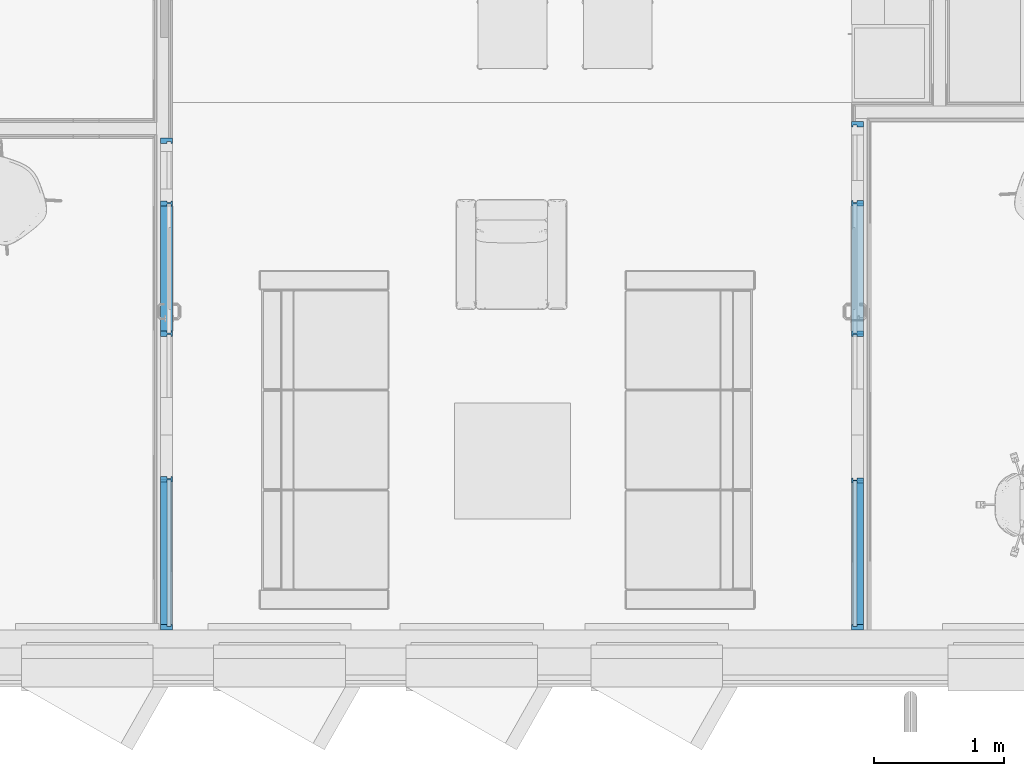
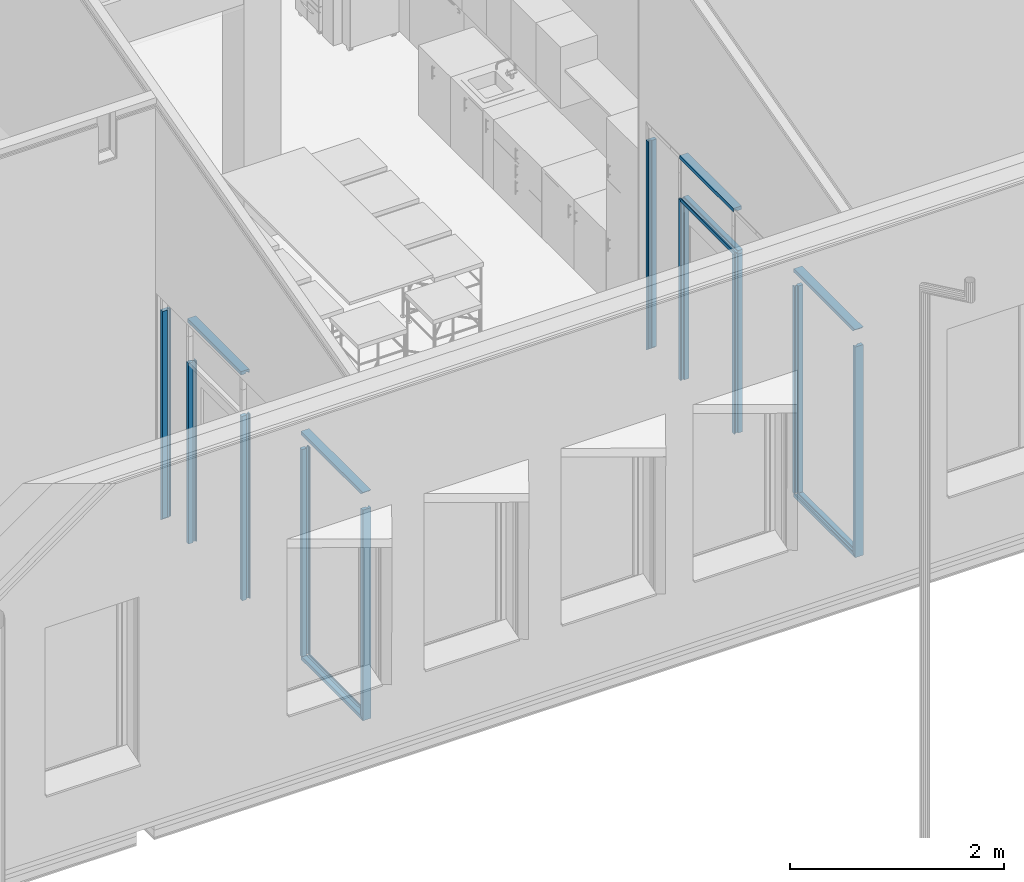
# One storey, part 30 of 153: 17 members, 2 elements without a shape of their own.
"""IFC2X3 building model written with IfcOpenShell, lengths in millimetres."""

from ifc_helpers import new_model, entity, si_unit, converted_unit, derived_unit, money_unit, direction, frame, origin_with_axes, place, context, subcontext, project, spatial, faceted_brep, material, type_object, element, aggregate, save


model = new_model("IFC2X3")

# Units and contexts
model_context = context("Model", 3, precision=0.01, world=origin_with_axes(), true_north=direction((0.0, 1.0)))
body_context = subcontext(model_context, "Body", "Model", "MODEL_VIEW")
ifc_project = project(units=[si_unit("LENGTHUNIT", "METRE", prefix="MILLI"), si_unit("AREAUNIT", "SQUARE_METRE"), si_unit("VOLUMEUNIT", "CUBIC_METRE"), converted_unit("PLANEANGLEUNIT", "DEGREE", entity("IfcPlaneAngleMeasure", 0.0174532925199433), si_unit("PLANEANGLEUNIT", "RADIAN"), dimensions=[0, 0, 0, 0, 0, 0, 0]), money_unit("EUR"), converted_unit("TIMEUNIT", "Year", entity("IfcTimeMeasure", 31557600.0), si_unit("TIMEUNIT", "SECOND"), dimensions=[0, 0, 1, 0, 0, 0, 0]), si_unit("MASSUNIT", "GRAM", prefix="KILO"), si_unit("THERMODYNAMICTEMPERATUREUNIT", "DEGREE_CELSIUS"), si_unit("LUMINOUSINTENSITYUNIT", "LUMEN"), si_unit("ENERGYUNIT", "JOULE", prefix="MEGA"), derived_unit("THERMALCONDUCTANCEUNIT", [(si_unit("POWERUNIT", "WATT"), 1), (si_unit("LENGTHUNIT", "METRE"), -1), (si_unit("THERMODYNAMICTEMPERATUREUNIT", "KELVIN"), -1)]), derived_unit("SPECIFICHEATCAPACITYUNIT", [(si_unit("ENERGYUNIT", "JOULE"), 1), (si_unit("MASSUNIT", "GRAM", prefix="KILO"), -1), (si_unit("THERMODYNAMICTEMPERATUREUNIT", "KELVIN"), -1)]), derived_unit("MASSDENSITYUNIT", [(si_unit("MASSUNIT", "GRAM", prefix="KILO"), 1), (si_unit("VOLUMEUNIT", "CUBIC_METRE"), -1)])], contexts=[model_context])

# Site, building, storey
site_placement = place(None, frame((0.0, 0.0, 8650.0), z_axis=(0.0, 0.0, 1.0), x_axis=(1.0, 0.0, 0.0)))
site = spatial("IfcSite", under=ifc_project, at=site_placement, Name="43301:001:0844", CompositionType="ELEMENT")
building_placement = place(site_placement, origin_with_axes())
building = spatial("IfcBuilding", under=site, at=building_placement, Name="Kuressaare Ametikooli tuulikute mehaanikute õppekorpus", CompositionType="ELEMENT")
storey_placement = place(building_placement, frame((0.0, 0.0, 4100.0), z_axis=(0.0, 0.0, 1.0), x_axis=(1.0, 0.0, 0.0)))
storey = spatial("IfcBuildingStorey", under=building, at=storey_placement, Name="2.korrus", CompositionType="ELEMENT", Elevation=4100.0)

# Curtain wall, members
curtain_wall_type = type_object("IfcCurtainWallType", Name="Curtain Wall Type", PredefinedType="NOTDEFINED")
curtain_wall_1_placement = place(storey_placement, frame((122879.3962682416, 12626.24529387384, 0.0), z_axis=(0.0, 0.0, 1.0), x_axis=(1.0, 0.0, 0.0)))
curtain_wall_1 = element("IfcCurtainWall", 1, at=curtain_wall_1_placement, inside=storey, type_object=curtain_wall_type, Name="PKF-3")
ifc_material = material(Name="Aluminium")
member_type_1 = type_object("IfcMemberType", Name="Boundary Frame 40 x 90", PredefinedType="NOTDEFINED")
member_1_placement = place(curtain_wall_1_placement, frame((0.0, 271.6905699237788, 0.0), z_axis=(0.0, 0.0, 1.0), x_axis=(0.0, -1.0, 0.0)))
member_1 = element("IfcMember", 2, at=member_1_placement, type_object=member_type_1, material=ifc_material, context=body_context, shape_type="Brep", body=[
    faceted_brep([(25.00000000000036, -15.00000000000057, 2400.000007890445), (25.00000000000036, 15.00000000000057, 2400.000007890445), (39.99999999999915, 15.00000000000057, 2400.000007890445), (39.99999999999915, 25.00000000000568, 2400.000007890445), (0.0, 25.00000000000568, 2400.000007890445), (0.0, 0.0, 2400.000007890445), (0.0, -64.99999999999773, 2400.000007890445), (39.99999999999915, -64.99999999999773, 2400.000007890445), (39.99999999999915, -15.00000000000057, 2400.000007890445), (25.00000000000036, -15.00000000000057, 24.99999999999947), (25.00000000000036, 15.00000000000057, 24.99999999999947), (39.99999999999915, 15.00000000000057, 40.00000000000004), (39.99999999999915, 25.00000000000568, 40.00000000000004), (0.0, 25.00000000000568, 0.0), (0.0, 0.0, 0.0), (0.0, -64.99999999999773, 0.0), (39.99999999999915, -64.99999999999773, 40.00000000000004), (39.99999999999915, -15.00000000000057, 40.00000000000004)], [[[0, 1, 2, 3, 4, 5, 6, 7, 8]], [[1, 0, 9, 10]], [[11, 2, 1, 10]], [[2, 11, 12, 3]], [[4, 3, 12, 13]], [[5, 4, 13, 14]], [[6, 5, 14, 15]], [[7, 6, 15, 16]], [[17, 8, 7, 16]], [[0, 8, 17, 9]], [[9, 17, 16, 15, 14, 13, 12, 11, 10]]]),
])
member_2_placement = place(curtain_wall_1_placement, frame((0.0, -3502.406732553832, 2400.0), z_axis=(0.0, 0.0, -1.0), x_axis=(0.0, 1.0, 0.0)))
member_2 = element("IfcMember", 3, at=member_2_placement, type_object=member_type_1, material=ifc_material, context=body_context, shape_type="Brep", body=[
    faceted_brep([(25.00000000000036, -15.00000000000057, 2375.0), (25.00000000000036, 15.00000000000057, 2375.0), (39.99999999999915, 15.00000000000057, 2360.0), (39.99999999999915, 25.00000000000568, 2360.0), (0.0, 25.00000000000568, 2400.0), (0.0, 0.0, 2400.0), (0.0, -64.99999999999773, 2400.0), (39.99999999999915, -64.99999999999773, 2360.0), (39.99999999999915, -15.00000000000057, 2360.0), (25.00000000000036, -15.00000000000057, -1.043910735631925e-06), (25.00000000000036, 15.00000000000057, -1.043910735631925e-06), (39.99999999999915, 15.00000000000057, -1.043910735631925e-06), (39.99999999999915, 25.00000000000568, -1.043910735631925e-06), (0.0, 25.00000000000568, -1.043911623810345e-06), (0.0, 0.0, -1.043911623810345e-06), (0.0, -64.99999999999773, -1.043911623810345e-06), (39.99999999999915, -64.99999999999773, -1.043910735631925e-06), (39.99999999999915, -15.00000000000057, -1.043910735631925e-06)], [[[0, 1, 2, 3, 4, 5, 6, 7, 8]], [[1, 0, 9, 10]], [[11, 2, 1, 10]], [[2, 11, 12, 3]], [[13, 4, 3, 12]], [[14, 5, 4, 13]], [[15, 6, 5, 14]], [[16, 7, 6, 15]], [[17, 8, 7, 16]], [[0, 8, 17, 9]], [[9, 17, 16, 15, 14, 13, 12, 11, 10]]]),
])
member_3_placement = place(curtain_wall_1_placement, frame((0.0, -1229.358154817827, 2600.0), z_axis=(0.0, 1.0, 0.0), x_axis=(0.0, 0.0, 1.0)))
member_3 = element("IfcMember", 4, at=member_3_placement, type_object=member_type_1, material=ifc_material, context=body_context, shape_type="Brep", body=[
    faceted_brep([(-25.00000000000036, -15.00000000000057, 1000.001771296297), (-40.00000000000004, -15.00000000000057, 1000.001771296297), (-40.00000000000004, -64.99999999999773, 1000.001771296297), (0.0, -64.99999999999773, 1000.001771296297), (0.0, 0.0, 1000.001771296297), (0.0, 25.00000000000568, 1000.001771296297), (-40.00000000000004, 25.00000000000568, 1000.001771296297), (-40.00000000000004, 15.00000000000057, 1000.001771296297), (-25.00000000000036, 15.00000000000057, 1000.001771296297), (-25.00000000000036, -15.00000000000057, 0.0), (-40.00000000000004, -15.00000000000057, 0.0), (-40.00000000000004, -64.99999999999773, 0.0), (0.0, -64.99999999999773, 0.0), (0.0, 0.0, 0.0), (0.0, 25.00000000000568, 0.0), (-40.00000000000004, 25.00000000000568, 0.0), (-40.00000000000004, 15.00000000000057, 0.0), (-25.00000000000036, 15.00000000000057, 0.0)], [[[0, 1, 2, 3, 4, 5, 6, 7, 8]], [[0, 9, 10, 1]], [[10, 11, 2, 1]], [[11, 12, 3, 2]], [[12, 13, 4, 3]], [[13, 14, 5, 4]], [[14, 15, 6, 5]], [[7, 6, 15, 16]], [[16, 17, 8, 7]], [[8, 17, 9, 0]], [[9, 17, 16, 15, 14, 13, 12, 11, 10]]]),
])
member_4_placement = place(curtain_wall_1_placement, frame((0.0, -3502.406722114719, 2600.0), z_axis=(0.0, 1.0, 0.0), x_axis=(0.0, 0.0, 1.0)))
member_4 = element("IfcMember", 5, at=member_4_placement, type_object=member_type_1, material=ifc_material, context=body_context, shape_type="Brep", body=[
    faceted_brep([(-25.00000000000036, -15.00000000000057, 1156.524285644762), (-40.00000000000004, -15.00000000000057, 1156.524285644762), (-40.00000000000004, -64.99999999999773, 1156.524285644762), (0.0, -64.99999999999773, 1156.524285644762), (0.0, 0.0, 1156.524285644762), (0.0, 25.00000000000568, 1156.524285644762), (-40.00000000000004, 25.00000000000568, 1156.524285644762), (-40.00000000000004, 15.00000000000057, 1156.524285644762), (-25.00000000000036, 15.00000000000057, 1156.524285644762), (-25.00000000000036, -15.00000000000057, 24.99999869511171), (-40.00000000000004, -15.00000000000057, 39.99999791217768), (-40.00000000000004, -64.99999999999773, 39.99999791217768), (0.0, -64.99999999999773, 0.0), (0.0, 0.0, 0.0), (0.0, 25.00000000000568, 0.0), (-40.00000000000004, 25.00000000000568, 39.99999791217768), (-40.00000000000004, 15.00000000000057, 39.99999791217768), (-25.00000000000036, 15.00000000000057, 24.99999869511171)], [[[0, 1, 2, 3, 4, 5, 6, 7, 8]], [[0, 9, 10, 1]], [[10, 11, 2, 1]], [[2, 11, 12, 3]], [[3, 12, 13, 4]], [[4, 13, 14, 5]], [[5, 14, 15, 6]], [[7, 6, 15, 16]], [[16, 17, 8, 7]], [[8, 17, 9, 0]], [[9, 17, 16, 15, 14, 13, 12, 11, 10]]]),
])
member_5_placement = place(curtain_wall_1_placement, frame((0.0, -3502.406732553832, 0.0), z_axis=(0.0, 1.0, 0.0), x_axis=(0.0, 0.0, 1.0)))
member_5 = element("IfcMember", 6, at=member_5_placement, type_object=member_type_1, material=ifc_material, context=body_context, shape_type="Brep", body=[
    faceted_brep([(25.00000000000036, -15.00000000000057, 1156.524586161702), (25.00000000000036, 15.00000000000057, 1156.524586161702), (40.00000000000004, 15.00000000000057, 1156.524586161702), (40.00000000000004, 25.00000000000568, 1156.524586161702), (0.0, 25.00000000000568, 1156.524586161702), (0.0, 0.0, 1156.524586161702), (0.0, -64.99999999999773, 1156.524586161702), (40.00000000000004, -64.99999999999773, 1156.524586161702), (40.00000000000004, -15.00000000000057, 1156.524586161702), (25.00000000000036, -15.00000000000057, 25.00000000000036), (25.00000000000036, 15.00000000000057, 25.00000000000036), (40.00000000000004, 15.00000000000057, 39.99999999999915), (40.00000000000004, 25.00000000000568, 39.99999999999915), (0.0, 25.00000000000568, 0.0), (0.0, 0.0, 0.0), (0.0, -64.99999999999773, 0.0), (40.00000000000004, -64.99999999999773, 40.00000000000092), (40.00000000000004, -15.00000000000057, 40.00000000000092)], [[[0, 1, 2, 3, 4, 5, 6, 7, 8]], [[1, 0, 9, 10]], [[11, 2, 1, 10]], [[2, 11, 12, 3]], [[4, 3, 12, 13]], [[5, 4, 13, 14]], [[6, 5, 14, 15]], [[7, 6, 15, 16]], [[17, 8, 7, 16]], [[0, 8, 17, 9]], [[9, 17, 16, 15, 14, 13, 12, 11, 10]]]),
])

curtain_wall_2_placement = place(storey_placement, frame((128142.9907946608, 12695.39546179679, 0.0), z_axis=(0.0, 0.0, 1.0), x_axis=(1.0, 0.0, 0.0)))
curtain_wall_2 = element("IfcCurtainWall", 7, at=curtain_wall_2_placement, inside=storey, type_object=curtain_wall_type, Name="PKF-4")
member_6_placement = place(curtain_wall_2_placement, frame((0.0, 328.6513387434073, 0.0), z_axis=(0.0, 0.0, 1.0), x_axis=(0.0, -1.0, 0.0)))
member_6 = element("IfcMember", 8, at=member_6_placement, type_object=member_type_1, material=ifc_material, context=body_context, shape_type="Brep", body=[
    faceted_brep([(25.00000000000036, 14.99999999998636, 2400.000007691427), (39.99999999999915, 14.99999999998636, 2400.000007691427), (39.99999999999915, 64.99999999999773, 2400.000007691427), (0.0, 64.99999999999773, 2400.000007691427), (0.0, 0.0, 2400.000007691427), (0.0, -25.00000000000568, 2400.000007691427), (39.99999999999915, -25.00000000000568, 2400.000007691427), (39.99999999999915, -14.99999999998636, 2400.000007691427), (25.00000000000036, -14.99999999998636, 2400.000007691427), (25.00000000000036, 14.99999999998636, 25.00000000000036), (39.99999999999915, 14.99999999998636, 40.00000000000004), (39.99999999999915, 64.99999999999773, 40.00000000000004), (0.0, 64.99999999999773, 0.0), (0.0, 0.0, 0.0), (0.0, -25.00000000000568, 0.0), (39.99999999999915, -25.00000000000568, 40.00000000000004), (39.99999999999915, -14.99999999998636, 40.00000000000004), (25.00000000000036, -14.99999999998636, 25.00000000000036)], [[[0, 1, 2, 3, 4, 5, 6, 7, 8]], [[0, 9, 10, 1]], [[10, 11, 2, 1]], [[2, 11, 12, 3]], [[3, 12, 13, 4]], [[4, 13, 14, 5]], [[5, 14, 15, 6]], [[7, 6, 15, 16]], [[16, 17, 8, 7]], [[8, 17, 9, 0]], [[9, 17, 16, 15, 14, 13, 12, 11, 10]]]),
])
member_7_placement = place(curtain_wall_2_placement, frame((0.0, -3571.556900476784, 2400.0), z_axis=(0.0, 0.0, -1.0), x_axis=(0.0, 1.0, 0.0)))
member_7 = element("IfcMember", 9, at=member_7_placement, type_object=member_type_1, material=ifc_material, context=body_context, shape_type="Brep", body=[
    faceted_brep([(25.00000000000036, 14.99999999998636, 2375.0), (39.99999999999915, 14.99999999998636, 2360.0), (39.99999999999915, 64.99999999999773, 2360.0), (0.0, 64.99999999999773, 2400.0), (0.0, 0.0, 2400.0), (0.0, -25.00000000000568, 2400.0), (39.99999999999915, -25.00000000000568, 2360.0), (39.99999999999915, -14.99999999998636, 2360.0), (25.00000000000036, -14.99999999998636, 2375.0), (25.00000000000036, 14.99999999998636, -3.073929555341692e-06), (39.99999999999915, 14.99999999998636, -3.073930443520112e-06), (39.99999999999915, 64.99999999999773, -3.073930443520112e-06), (0.0, 64.99999999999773, -3.073930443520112e-06), (0.0, 0.0, -3.073930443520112e-06), (0.0, -25.00000000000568, -3.073930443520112e-06), (39.99999999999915, -25.00000000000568, -3.073930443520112e-06), (39.99999999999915, -14.99999999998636, -3.073930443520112e-06), (25.00000000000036, -14.99999999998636, -3.073929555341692e-06)], [[[0, 1, 2, 3, 4, 5, 6, 7, 8]], [[0, 9, 10, 1]], [[10, 11, 2, 1]], [[11, 12, 3, 2]], [[12, 13, 4, 3]], [[13, 14, 5, 4]], [[14, 15, 6, 5]], [[7, 6, 15, 16]], [[16, 17, 8, 7]], [[8, 17, 9, 0]], [[9, 17, 16, 15, 14, 13, 12, 11, 10]]]),
])
member_8_placement = place(curtain_wall_2_placement, frame((0.0, -1299.320943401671, 2099.999978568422), z_axis=(0.0, 1.0, 0.0), x_axis=(0.0, 0.0, 1.0)))
member_8 = element("IfcMember", 10, at=member_8_placement, type_object=member_type_1, material=ifc_material, context=body_context, shape_type="Brep", body=[
    faceted_brep([(-4.999999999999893, 14.99999999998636, 999.9999897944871), (-4.999999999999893, -14.99999999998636, 999.9999897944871), (-20.00000000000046, -14.99999999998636, 999.9999897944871), (-20.00000000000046, -25.00000000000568, 999.9999897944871), (19.99999999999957, -25.00000000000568, 999.9999897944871), (19.99999999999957, -14.99999999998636, 999.9999897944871), (4.999999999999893, -14.99999999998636, 999.9999897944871), (4.999999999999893, 14.99999999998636, 999.9999897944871), (19.99999999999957, 14.99999999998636, 999.9999897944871), (19.99999999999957, 64.99999999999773, 999.9999897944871), (-20.00000000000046, 64.99999999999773, 999.9999897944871), (-20.00000000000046, 14.99999999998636, 999.9999897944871), (-4.999999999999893, 14.99999999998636, -20.00000005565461), (-4.999999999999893, -14.99999999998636, -20.00000005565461), (-19.99999999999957, -14.99999999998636, -20.00000005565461), (-19.99999999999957, -25.00000000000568, -20.00000005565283), (19.99999999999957, -25.00000000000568, -20.00000005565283), (19.99999999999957, -14.99999999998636, -20.00000005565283), (4.999999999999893, -14.99999999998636, -20.00000005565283), (4.999999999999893, 14.99999999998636, -20.00000005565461), (19.99999999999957, 14.99999999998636, -20.00000005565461), (19.99999999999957, 64.99999999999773, -20.00000005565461), (-19.99999999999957, 64.99999999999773, -20.00000005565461), (-19.99999999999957, 14.99999999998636, -20.00000005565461)], [[[0, 1, 2, 3, 4, 5, 6, 7, 8, 9, 10, 11]], [[0, 12, 13, 1]], [[1, 13, 14, 2]], [[14, 15, 3, 2]], [[3, 15, 16, 4]], [[17, 5, 4, 16]], [[5, 17, 18, 6]], [[7, 6, 18, 19]], [[8, 7, 19, 20]], [[8, 20, 21, 9]], [[9, 21, 22, 10]], [[11, 10, 22, 23]], [[11, 23, 12, 0]], [[13, 12, 23, 22, 21, 20, 19, 18, 17, 16, 15, 14]]]),
])
member_9_placement = place(curtain_wall_2_placement, frame((0.0, -1299.320979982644, 2600.0), z_axis=(0.0, 1.0, 0.0), x_axis=(0.0, 0.0, 1.0)))
member_9 = element("IfcMember", 11, at=member_9_placement, type_object=member_type_1, material=ifc_material, context=body_context, shape_type="Brep", body=[
    faceted_brep([(-25.00000000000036, 14.99999999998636, 1001.810989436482), (-25.00000000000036, -14.99999999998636, 1001.810989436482), (-40.00000000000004, -14.99999999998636, 1001.810989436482), (-40.00000000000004, -25.00000000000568, 1001.810989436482), (0.0, -25.00000000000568, 1001.810989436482), (0.0, 0.0, 1001.810989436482), (0.0, 64.99999999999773, 1001.810989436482), (-40.00000000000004, 64.99999999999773, 1001.810989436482), (-40.00000000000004, 14.99999999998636, 1001.810989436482), (-25.00000000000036, 14.99999999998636, 0.0), (-25.00000000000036, -14.99999999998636, 0.0), (-40.00000000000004, -14.99999999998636, 0.0), (-40.00000000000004, -25.00000000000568, 0.0), (0.0, -25.00000000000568, 0.0), (0.0, 0.0, 0.0), (0.0, 64.99999999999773, 0.0), (-40.00000000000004, 64.99999999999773, 0.0), (-40.00000000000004, 14.99999999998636, 0.0)], [[[0, 1, 2, 3, 4, 5, 6, 7, 8]], [[1, 0, 9, 10]], [[11, 2, 1, 10]], [[2, 11, 12, 3]], [[13, 4, 3, 12]], [[14, 5, 4, 13]], [[15, 6, 5, 14]], [[16, 7, 6, 15]], [[17, 8, 7, 16]], [[0, 8, 17, 9]], [[9, 17, 16, 15, 14, 13, 12, 11, 10]]]),
])
member_10_placement = place(curtain_wall_2_placement, frame((0.0, -3571.556900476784, 0.0), z_axis=(0.0, 1.0, 0.0), x_axis=(0.0, 0.0, 1.0)))
member_10 = element("IfcMember", 12, at=member_10_placement, type_object=member_type_1, material=ifc_material, context=body_context, shape_type="Brep", body=[
    faceted_brep([(25.00000000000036, 14.99999999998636, 1146.118023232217), (40.00000000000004, 14.99999999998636, 1146.118023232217), (40.00000000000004, 64.99999999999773, 1146.118023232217), (0.0, 64.99999999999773, 1146.118023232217), (0.0, 0.0, 1146.118023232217), (0.0, -25.00000000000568, 1146.118023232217), (40.00000000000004, -25.00000000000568, 1146.118023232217), (40.00000000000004, -14.99999999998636, 1146.118023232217), (25.00000000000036, -14.99999999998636, 1146.118023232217), (25.00000000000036, 14.99999999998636, 25.00000000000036), (40.00000000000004, 14.99999999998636, 39.99999999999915), (40.00000000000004, 64.99999999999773, 39.99999999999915), (0.0, 64.99999999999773, 0.0), (0.0, 0.0, 0.0), (0.0, -25.00000000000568, 0.0), (40.00000000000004, -25.00000000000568, 40.00000000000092), (40.00000000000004, -14.99999999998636, 40.00000000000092), (25.00000000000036, -14.99999999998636, 25.00000000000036)], [[[0, 1, 2, 3, 4, 5, 6, 7, 8]], [[0, 9, 10, 1]], [[10, 11, 2, 1]], [[2, 11, 12, 3]], [[3, 12, 13, 4]], [[4, 13, 14, 5]], [[5, 14, 15, 6]], [[7, 6, 15, 16]], [[16, 17, 8, 7]], [[8, 17, 9, 0]], [[9, 17, 16, 15, 14, 13, 12, 11, 10]]]),
])
member_11_placement = place(curtain_wall_2_placement, frame((0.0, -3571.556869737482, 2600.0), z_axis=(0.0, 1.0, 0.0), x_axis=(0.0, 0.0, 1.0)))
member_11 = element("IfcMember", 13, at=member_11_placement, type_object=member_type_1, material=ifc_material, context=body_context, shape_type="Brep", body=[
    faceted_brep([(-25.00000000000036, 14.99999999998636, 1146.117992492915), (-25.00000000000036, -14.99999999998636, 1146.117992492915), (-40.00000000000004, -14.99999999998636, 1146.117992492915), (-40.00000000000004, -25.00000000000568, 1146.117992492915), (0.0, -25.00000000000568, 1146.117992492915), (0.0, 0.0, 1146.117992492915), (0.0, 64.99999999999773, 1146.117992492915), (-40.00000000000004, 64.99999999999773, 1146.117992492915), (-40.00000000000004, 14.99999999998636, 1146.117992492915), (-25.00000000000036, 14.99999999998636, 24.99999615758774), (-25.00000000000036, -14.99999999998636, 24.99999615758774), (-40.00000000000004, -14.99999999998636, 39.99999385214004), (-40.00000000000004, -25.00000000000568, 39.99999385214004), (0.0, -25.00000000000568, 0.0), (0.0, 0.0, 0.0), (0.0, 64.99999999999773, 0.0), (-40.00000000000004, 64.99999999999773, 39.99999385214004), (-40.00000000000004, 14.99999999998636, 39.99999385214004)], [[[0, 1, 2, 3, 4, 5, 6, 7, 8]], [[1, 0, 9, 10]], [[11, 2, 1, 10]], [[2, 11, 12, 3]], [[4, 3, 12, 13]], [[5, 4, 13, 14]], [[6, 5, 14, 15]], [[7, 6, 15, 16]], [[17, 8, 7, 16]], [[0, 8, 17, 9]], [[9, 17, 16, 15, 14, 13, 12, 11, 10]]]),
])

# Member
member_type_2 = type_object("IfcMemberType", Name="Mullion Frame 40 x 90", PredefinedType="NOTDEFINED")
member_12_placement = place(curtain_wall_1_placement, frame((0.0, -229.3563716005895, 0.0), z_axis=(0.0, -4.967058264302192e-09, 1.0), x_axis=(0.0, -1.0, -4.967058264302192e-09)))
member_12 = element("IfcMember", 14, at=member_12_placement, type_object=member_type_2, material=ifc_material, context=body_context, shape_type="Brep", body=[
    faceted_brep([(-5.00001043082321, -15.00000000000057, 2100.000014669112), (-20.000010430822, -15.00000000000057, 2100.000014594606), (-20.000010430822, -64.99999999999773, 2100.000014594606), (19.99998956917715, -64.99999999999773, 2100.000014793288), (19.99998956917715, -15.00000000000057, 2100.000014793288), (4.999989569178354, -15.00000000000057, 2100.000014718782), (4.999989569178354, 15.00000000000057, 2100.000014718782), (19.99998956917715, 15.00000000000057, 2100.000014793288), (19.99998956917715, 25.00000000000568, 2100.000014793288), (-20.000010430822, 25.00000000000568, 2100.000014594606), (-20.000010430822, 15.00000000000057, 2100.000014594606), (-5.00001043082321, 15.00000000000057, 2100.000014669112), (-5.000000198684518, -15.00000000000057, 40.00000004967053), (-20.00000019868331, -15.00000000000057, 39.99999997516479), (-20.00000019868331, -64.99999999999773, 40.00000022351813), (19.99999980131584, -64.99999999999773, 40.00000042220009), (19.99999980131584, -15.00000000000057, 40.00000017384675), (4.999999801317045, -15.00000000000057, 40.00000009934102), (4.999999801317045, 15.00000000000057, 39.99999995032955), (19.99999980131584, 15.00000000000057, 40.00000002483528), (19.99999980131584, 25.00000000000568, 39.99999997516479), (-20.00000019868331, 25.00000000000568, 39.99999977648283), (-20.00000019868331, 15.00000000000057, 39.99999982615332), (-5.000000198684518, 15.00000000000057, 39.99999990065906)], [[[0, 1, 2, 3, 4, 5, 6, 7, 8, 9, 10, 11]], [[1, 0, 12, 13]], [[1, 13, 14, 2]], [[2, 14, 15, 3]], [[4, 3, 15, 16]], [[4, 16, 17, 5]], [[5, 17, 18, 6]], [[7, 6, 18, 19]], [[19, 20, 8, 7]], [[8, 20, 21, 9]], [[22, 10, 9, 21]], [[11, 10, 22, 23]], [[0, 11, 23, 12]], [[23, 22, 21, 20, 19, 18, 17, 16, 15, 14, 13, 12]]]),
])

member_13_placement = place(curtain_wall_1_placement, frame((0.0, -1229.358130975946, 0.0), z_axis=(0.0, 0.0, 1.0), x_axis=(0.0, -1.0, 0.0)))
member_13 = element("IfcMember", 15, at=member_13_placement, type_object=member_type_2, material=ifc_material, context=body_context, shape_type="Brep", body=[
    faceted_brep([(-5.000000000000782, -15.00000000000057, 2099.999985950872), (-19.99999999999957, -15.00000000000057, 2099.999985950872), (-19.99999999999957, -64.99999999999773, 2099.999985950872), (19.99999999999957, -64.99999999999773, 2099.999985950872), (19.99999999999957, -15.00000000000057, 2099.999985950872), (5.000000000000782, -15.00000000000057, 2099.999985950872), (5.000000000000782, 15.00000000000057, 2099.999985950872), (19.99999999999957, 15.00000000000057, 2099.999985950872), (19.99999999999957, 25.00000000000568, 2099.999985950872), (-19.99999999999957, 25.00000000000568, 2099.999985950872), (-19.99999999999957, 15.00000000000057, 2099.999985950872), (-5.000000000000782, 15.00000000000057, 2099.999985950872), (-5.000000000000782, -15.00000000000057, 0.0), (-19.99999999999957, -15.00000000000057, 0.0), (-19.99999999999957, -64.99999999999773, 0.0), (19.99999999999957, -64.99999999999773, 0.0), (19.99999999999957, -15.00000000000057, 0.0), (5.000000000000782, -15.00000000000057, 0.0), (5.000000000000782, 15.00000000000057, 0.0), (19.99999999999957, 15.00000000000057, 0.0), (19.99999999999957, 25.00000000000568, 0.0), (-19.99999999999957, 25.00000000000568, 0.0), (-19.99999999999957, 15.00000000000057, 0.0), (-5.000000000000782, 15.00000000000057, 0.0)], [[[0, 1, 2, 3, 4, 5, 6, 7, 8, 9, 10, 11]], [[1, 0, 12, 13]], [[1, 13, 14, 2]], [[3, 2, 14, 15]], [[4, 3, 15, 16]], [[4, 16, 17, 5]], [[5, 17, 18, 6]], [[7, 6, 18, 19]], [[19, 20, 8, 7]], [[9, 8, 20, 21]], [[22, 10, 9, 21]], [[11, 10, 22, 23]], [[0, 11, 23, 12]], [[23, 22, 21, 20, 19, 18, 17, 16, 15, 14, 13, 12]]]),
])

member_14_placement = place(curtain_wall_1_placement, frame((0.0, -2345.88214639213, 0.0), z_axis=(0.0, -1.115685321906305e-07, 0.9999999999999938), x_axis=(0.0, -0.9999999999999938, -1.115685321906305e-07)))
member_14 = element("IfcMember", 16, at=member_14_placement, type_object=member_type_2, material=ifc_material, context=body_context, shape_type="Brep", body=[
    faceted_brep([(-5.000267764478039, -15.00000000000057, 2399.999999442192), (-20.00026776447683, -15.00000000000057, 2399.999997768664), (-20.00026776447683, -64.99999999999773, 2399.999997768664), (19.99973223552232, -64.99999999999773, 2400.000002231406), (19.99973223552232, -15.00000000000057, 2400.000002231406), (4.999732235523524, -15.00000000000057, 2400.000000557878), (4.999732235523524, 15.00000000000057, 2400.000000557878), (19.99973223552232, 15.00000000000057, 2400.000002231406), (19.99973223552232, 25.00000000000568, 2400.000002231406), (-20.00026776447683, 25.00000000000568, 2399.999997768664), (-20.00026776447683, 15.00000000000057, 2399.999997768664), (-5.000267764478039, 15.00000000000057, 2399.999999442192), (-5.000004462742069, -15.00000000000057, 40.00000111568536), (-20.00000446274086, -15.00000000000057, 39.99999944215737), (-20.00000446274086, -64.99999999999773, 40.00000502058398), (19.99999553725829, -64.99999999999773, 40.00000948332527), (19.99999553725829, -15.00000000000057, 40.00000390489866), (4.999995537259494, -15.00000000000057, 40.00000223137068), (4.999995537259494, 15.00000000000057, 39.99999888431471), (19.99999553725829, 15.00000000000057, 40.0000005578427), (19.99999553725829, 25.00000000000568, 39.99999944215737), (-20.00000446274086, 25.00000000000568, 39.99999497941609), (-20.00000446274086, 15.00000000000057, 39.99999609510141), (-5.000004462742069, 15.00000000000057, 39.99999776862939)], [[[0, 1, 2, 3, 4, 5, 6, 7, 8, 9, 10, 11]], [[1, 0, 12, 13]], [[1, 13, 14, 2]], [[2, 14, 15, 3]], [[4, 3, 15, 16]], [[4, 16, 17, 5]], [[5, 17, 18, 6]], [[7, 6, 18, 19]], [[19, 20, 8, 7]], [[8, 20, 21, 9]], [[22, 10, 9, 21]], [[11, 10, 22, 23]], [[0, 11, 23, 12]], [[23, 22, 21, 20, 19, 18, 17, 16, 15, 14, 13, 12]]]),
])

aggregate(curtain_wall_1, [member_1, member_2, member_3, member_12, member_13, member_4, member_5, member_14])

member_15_placement = place(curtain_wall_2_placement, frame((0.0, -297.50999589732, 0.0), z_axis=(0.0, 0.0, 1.0), x_axis=(0.0, -1.0, 0.0)))
member_15 = element("IfcMember", 17, at=member_15_placement, type_object=member_type_2, material=ifc_material, context=body_context, shape_type="Brep", body=[
    faceted_brep([(-5.000000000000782, 14.99999999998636, 2099.99997953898), (-5.000000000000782, -14.99999999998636, 2099.99997953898), (-19.99999999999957, -14.99999999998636, 2099.99997953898), (-19.99999999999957, -25.00000000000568, 2099.99997953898), (19.99999999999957, -25.00000000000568, 2099.99997953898), (19.99999999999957, -14.99999999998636, 2099.99997953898), (5.000000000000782, -14.99999999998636, 2099.99997953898), (5.000000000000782, 14.99999999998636, 2099.99997953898), (19.99999999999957, 14.99999999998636, 2099.99997953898), (19.99999999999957, 64.99999999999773, 2099.99997953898), (-19.99999999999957, 64.99999999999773, 2099.99997953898), (-19.99999999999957, 14.99999999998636, 2099.99997953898), (-5.000000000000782, 14.99999999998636, 40.00000000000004), (-5.000000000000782, -14.99999999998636, 40.00000000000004), (-19.99999999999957, -14.99999999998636, 40.00000000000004), (-19.99999999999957, -25.00000000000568, 40.00000000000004), (19.99999999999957, -25.00000000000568, 40.00000000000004), (19.99999999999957, -14.99999999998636, 40.00000000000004), (5.000000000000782, -14.99999999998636, 40.00000000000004), (5.000000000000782, 14.99999999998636, 40.00000000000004), (19.99999999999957, 14.99999999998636, 40.00000000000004), (19.99999999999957, 64.99999999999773, 40.00000000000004), (-19.99999999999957, 64.99999999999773, 40.00000000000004), (-19.99999999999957, 14.99999999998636, 40.00000000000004)], [[[0, 1, 2, 3, 4, 5, 6, 7, 8, 9, 10, 11]], [[0, 12, 13, 1]], [[1, 13, 14, 2]], [[14, 15, 3, 2]], [[4, 3, 15, 16]], [[17, 5, 4, 16]], [[5, 17, 18, 6]], [[7, 6, 18, 19]], [[8, 7, 19, 20]], [[8, 20, 21, 9]], [[10, 9, 21, 22]], [[11, 10, 22, 23]], [[11, 23, 12, 0]], [[13, 12, 23, 22, 21, 20, 19, 18, 17, 16, 15, 14]]]),
])

member_16_placement = place(curtain_wall_2_placement, frame((0.0, -1299.320907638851, 0.0), z_axis=(0.0, -1.702991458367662e-08, 1.0), x_axis=(0.0, -1.0, -1.702991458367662e-08)))
member_16 = element("IfcMember", 18, at=member_16_placement, type_object=member_type_2, material=ifc_material, context=body_context, shape_type="Brep", body=[
    faceted_brep([(-5.000035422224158, 14.99999999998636, 2079.999978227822), (-5.000035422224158, -14.99999999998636, 2079.99997873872), (-20.00003542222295, -14.99999999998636, 2079.999978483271), (-20.00003542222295, -25.00000000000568, 2079.99997865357), (19.9999645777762, -25.00000000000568, 2079.999979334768), (19.9999645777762, -14.99999999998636, 2079.999979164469), (4.999964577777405, -14.99999999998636, 2079.99997890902), (4.999964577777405, 14.99999999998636, 2079.999978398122), (19.9999645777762, 14.99999999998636, 2079.99997865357), (19.9999645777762, 64.99999999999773, 2079.999977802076), (-20.00003542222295, 64.99999999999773, 2079.999977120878), (-20.00003542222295, 14.99999999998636, 2079.999977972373), (-5.000000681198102, 14.99999999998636, 40.00000017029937), (-5.000000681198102, -14.99999999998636, 39.99999965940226), (-20.00000068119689, -14.99999999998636, 39.99999940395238), (-20.00000068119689, -25.00000000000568, 39.99999923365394), (19.99999931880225, -25.00000000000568, 39.99999991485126), (19.99999931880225, -14.99999999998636, 40.0000000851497), (4.999999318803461, -14.99999999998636, 39.99999982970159), (4.999999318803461, 14.99999999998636, 40.0000003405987), (19.99999931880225, 14.99999999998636, 40.00000059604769), (19.99999931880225, 64.99999999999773, 40.00000144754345), (-20.00000068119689, 64.99999999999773, 40.00000076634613), (-20.00000068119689, 14.99999999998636, 39.99999991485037)], [[[0, 1, 2, 3, 4, 5, 6, 7, 8, 9, 10, 11]], [[0, 12, 13, 1]], [[1, 13, 14, 2]], [[14, 15, 3, 2]], [[4, 3, 15, 16]], [[17, 5, 4, 16]], [[5, 17, 18, 6]], [[7, 6, 18, 19]], [[8, 7, 19, 20]], [[8, 20, 21, 9]], [[10, 9, 21, 22]], [[11, 10, 22, 23]], [[11, 23, 12, 0]], [[13, 12, 23, 22, 21, 20, 19, 18, 17, 16, 15, 14]]]),
])

member_17_placement = place(curtain_wall_2_placement, frame((0.0, -2425.438877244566, 0.0), z_axis=(0.0, 0.0, 1.0), x_axis=(0.0, -1.0, 0.0)))
member_17 = element("IfcMember", 19, at=member_17_placement, type_object=member_type_2, material=ifc_material, context=body_context, shape_type="Brep", body=[
    faceted_brep([(-5.000000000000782, 14.99999999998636, 2400.000001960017), (-5.000000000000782, -14.99999999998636, 2400.000001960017), (-19.99999999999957, -14.99999999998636, 2400.000001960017), (-19.99999999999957, -25.00000000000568, 2400.000001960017), (19.99999999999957, -25.00000000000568, 2400.000001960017), (19.99999999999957, -14.99999999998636, 2400.000001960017), (5.000000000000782, -14.99999999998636, 2400.000001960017), (5.000000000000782, 14.99999999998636, 2400.000001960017), (19.99999999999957, 14.99999999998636, 2400.000001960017), (19.99999999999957, 64.99999999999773, 2400.000001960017), (-19.99999999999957, 64.99999999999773, 2400.000001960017), (-19.99999999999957, 14.99999999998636, 2400.000001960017), (-5.000000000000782, 14.99999999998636, 40.00000000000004), (-5.000000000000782, -14.99999999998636, 40.00000000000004), (-19.99999999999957, -14.99999999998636, 40.00000000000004), (-19.99999999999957, -25.00000000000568, 40.00000000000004), (19.99999999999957, -25.00000000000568, 40.00000000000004), (19.99999999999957, -14.99999999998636, 40.00000000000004), (5.000000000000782, -14.99999999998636, 40.00000000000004), (5.000000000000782, 14.99999999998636, 40.00000000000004), (19.99999999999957, 14.99999999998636, 40.00000000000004), (19.99999999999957, 64.99999999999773, 40.00000000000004), (-19.99999999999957, 64.99999999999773, 40.00000000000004), (-19.99999999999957, 14.99999999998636, 40.00000000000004)], [[[0, 1, 2, 3, 4, 5, 6, 7, 8, 9, 10, 11]], [[0, 12, 13, 1]], [[1, 13, 14, 2]], [[14, 15, 3, 2]], [[4, 3, 15, 16]], [[17, 5, 4, 16]], [[5, 17, 18, 6]], [[7, 6, 18, 19]], [[8, 7, 19, 20]], [[8, 20, 21, 9]], [[10, 9, 21, 22]], [[11, 10, 22, 23]], [[11, 23, 12, 0]], [[13, 12, 23, 22, 21, 20, 19, 18, 17, 16, 15, 14]]]),
])

aggregate(curtain_wall_2, [member_6, member_7, member_8, member_15, member_16, member_9, member_17, member_10, member_11])

save(model, "model.ifc")
